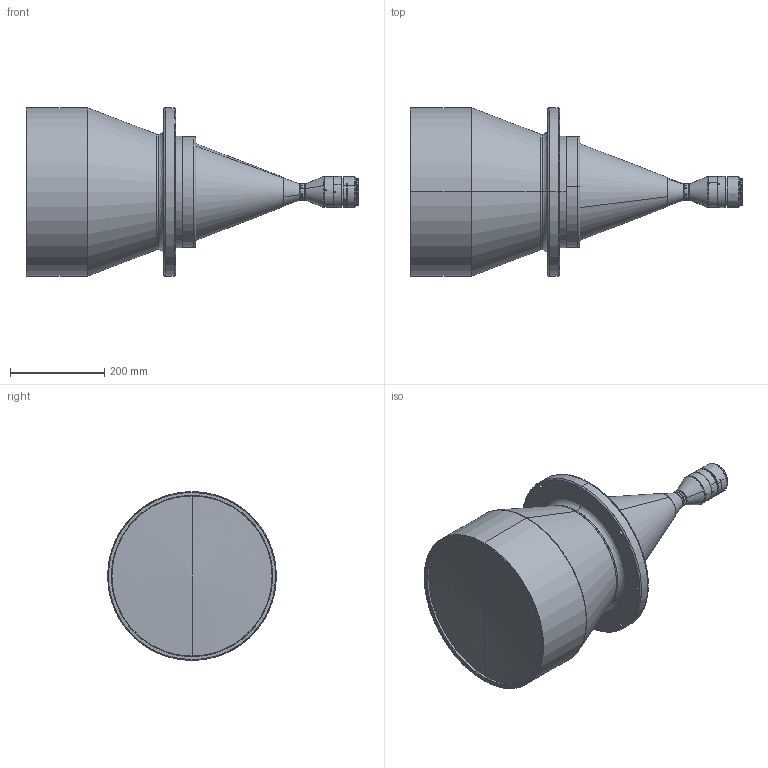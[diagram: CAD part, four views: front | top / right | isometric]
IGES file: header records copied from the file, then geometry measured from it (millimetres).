
Start section: SolidWorks IGES file using analytic representation for surfaces
Global section: file name: F:\BaiduSyncdisk\1-产品  2022-new\DTCM（2023.5.29整体拷过来）\F+B\－－ AL   可调后截距\300S-  AL-ok\DTCM175-300S-M58-AL\3D\DTCM175-300S-M58-AL.IGS; native system: SolidWorks 2017; preprocessor: SolidWorks 2017; author: luo-PC; date: 231124.142846; units: millimetre
Bounding box: 704.76 x 358 x 358 mm (x, y, z)
Surface area: 709015 mm2 (no closed solid volume)
Topology: 0 solids, 0 shells, 159 faces, 4008 edges, 4004 vertices
Faces by surface type: revolution 115, bspline 44
